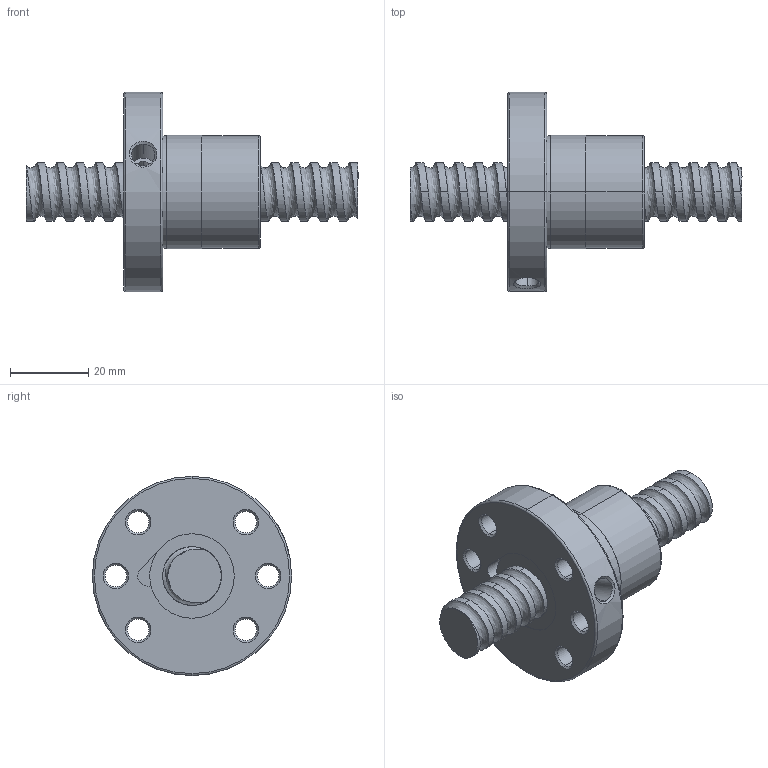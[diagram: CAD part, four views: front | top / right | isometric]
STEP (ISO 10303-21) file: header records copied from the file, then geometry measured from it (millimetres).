
FILE_DESCRIPTION (( 'STEP AP214' ), '1' );
FILE_NAME ('FSDC01505T3-B-A.STEP', '2010-06-25T11:26:02', ( 'XPAUTO' ), ( 'XPAUTO' ), 'SwSTEP 2.0', 'SolidWorks 2007', '' );
FILE_SCHEMA (( 'AUTOMOTIVE_DESIGN' ));
Length unit declared in the file: millimetre
Products named in the file (3): FSDC01505T3-B-A.sldasm-Part-1_預設; FSDC01505T3-B-A; FSDC01505T3-B-A.sldasm-Part-2_預設
Assembly tree (2 placements, depth 2):
  FSDC01505T3-B-A
    FSDC01505T3-B-A.sldasm-Part-1_預設
    FSDC01505T3-B-A.sldasm-Part-2_預設
Bounding box: 85 x 51 x 51 mm (x, y, z)
Volume: 41275.7 mm3; surface area: 15507.7 mm2
Topology: 2 solids, 2 shells, 125 faces, 316 edges, 199 vertices
Faces by surface type: cylinder 73, cone 24, plane 16, bspline 6, torus 6
Entity records: 32675 total; most frequent: CARTESIAN_POINT 29679, ORIENTED_EDGE 632, DIRECTION 576, EDGE_CURVE 316, AXIS2_PLACEMENT_3D 235, VERTEX_POINT 199, EDGE_LOOP 145, FACE_OUTER_BOUND 125
